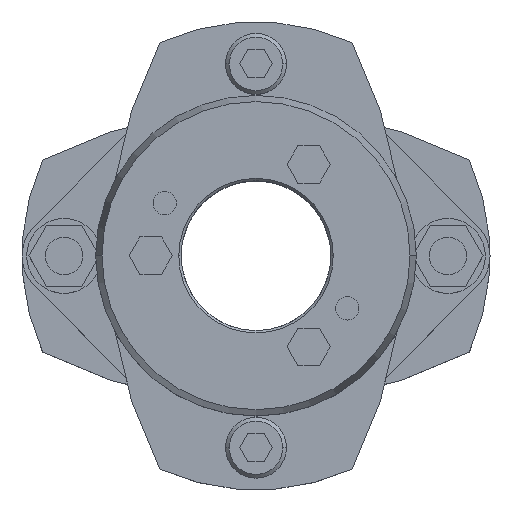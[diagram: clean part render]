
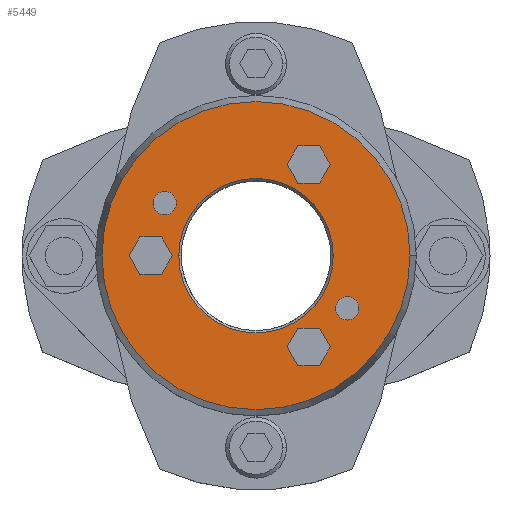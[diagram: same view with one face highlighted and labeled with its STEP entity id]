
A CAD part, top view. The second image highlights one B-rep face of the part: STEP entity #5449.
In plain terms, the highlighted planar face has unit normal (0, 0, 1).
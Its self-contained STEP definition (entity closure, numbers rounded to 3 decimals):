
#857=CARTESIAN_POINT('',(-16.5,0.,42.0));
#858=VERTEX_POINT('',#857);
#874=CARTESIAN_POINT('',(16.5,0.,42.0));
#875=VERTEX_POINT('',#874);
#882=CARTESIAN_POINT('',(0.,0.,42.0));
#883=DIRECTION('',(0.0,0.0,1.0));
#884=DIRECTION('',(-1.0,0.0,0.0));
#885=AXIS2_PLACEMENT_3D('',#882,#883,#884);
#886=CIRCLE('',#885,16.5);
#887=EDGE_CURVE('',#875,#858,#886,.T.);
#1045=CARTESIAN_POINT('',(32.91,0.,42.0));
#1046=VERTEX_POINT('',#1045);
#1053=CARTESIAN_POINT('',(-32.91,0.,42.0));
#1054=VERTEX_POINT('',#1053);
#1055=CARTESIAN_POINT('',(0.,0.,42.0));
#1056=DIRECTION('',(0.0,0.0,-1.0));
#1057=DIRECTION('',(1.0,0.0,0.0));
#1058=AXIS2_PLACEMENT_3D('',#1055,#1056,#1057);
#1059=CIRCLE('',#1058,32.91);
#1060=EDGE_CURVE('',#1046,#1054,#1059,.T.);
#1155=CARTESIAN_POINT('',(16.986,-11.25,42.0));
#1156=VERTEX_POINT('',#1155);
#1172=CARTESIAN_POINT('',(21.986,-11.25,42.0));
#1173=VERTEX_POINT('',#1172);
#1180=CARTESIAN_POINT('',(19.486,-11.25,42.0));
#1181=DIRECTION('',(0.0,0.0,-1.0));
#1182=DIRECTION('',(-1.0,0.0,0.0));
#1183=AXIS2_PLACEMENT_3D('',#1180,#1181,#1182);
#1184=CIRCLE('',#1183,2.5);
#1185=EDGE_CURVE('',#1156,#1173,#1184,.T.);
#1197=CARTESIAN_POINT('',(-21.986,11.25,42.0));
#1198=VERTEX_POINT('',#1197);
#1214=CARTESIAN_POINT('',(-16.986,11.25,42.0));
#1215=VERTEX_POINT('',#1214);
#1222=CARTESIAN_POINT('',(-19.486,11.25,42.0));
#1223=DIRECTION('',(0.0,0.0,-1.0));
#1224=DIRECTION('',(-1.0,0.0,0.0));
#1225=AXIS2_PLACEMENT_3D('',#1222,#1223,#1224);
#1226=CIRCLE('',#1225,2.5);
#1227=EDGE_CURVE('',#1198,#1215,#1226,.T.);
#4476=CARTESIAN_POINT('',(-19.486,11.25,42.0));
#4477=DIRECTION('',(0.0,0.0,-1.0));
#4478=DIRECTION('',(-1.0,0.0,0.0));
#4479=AXIS2_PLACEMENT_3D('',#4476,#4477,#4478);
#4480=CIRCLE('',#4479,2.5);
#4481=EDGE_CURVE('',#1215,#1198,#4480,.T.);
#4510=CARTESIAN_POINT('',(19.486,-11.25,42.0));
#4511=DIRECTION('',(0.0,0.0,-1.0));
#4512=DIRECTION('',(-1.0,0.0,0.0));
#4513=AXIS2_PLACEMENT_3D('',#4510,#4511,#4512);
#4514=CIRCLE('',#4513,2.5);
#4515=EDGE_CURVE('',#1173,#1156,#4514,.T.);
#4553=CARTESIAN_POINT('',(-27.119,0.,42.0));
#4554=VERTEX_POINT('',#4553);
#4561=CARTESIAN_POINT('',(-24.809,-4.,42.0));
#4562=VERTEX_POINT('',#4561);
#4563=CARTESIAN_POINT('',(-24.809,-4.,42.0));
#4564=DIRECTION('',(-0.5,0.866,0.0));
#4565=VECTOR('',#4564,4.619);
#4566=LINE('',#4563,#4565);
#4567=EDGE_CURVE('',#4562,#4554,#4566,.T.);
#4591=CARTESIAN_POINT('',(-24.809,4.,42.0));
#4592=VERTEX_POINT('',#4591);
#4599=CARTESIAN_POINT('',(-27.119,0.,42.0));
#4600=DIRECTION('',(0.5,0.866,0.0));
#4601=VECTOR('',#4600,4.619);
#4602=LINE('',#4599,#4601);
#4603=EDGE_CURVE('',#4554,#4592,#4602,.T.);
#4622=CARTESIAN_POINT('',(-20.191,4.,42.0));
#4623=VERTEX_POINT('',#4622);
#4630=CARTESIAN_POINT('',(-24.809,4.,42.0));
#4631=DIRECTION('',(1.0,0.0,0.0));
#4632=VECTOR('',#4631,4.619);
#4633=LINE('',#4630,#4632);
#4634=EDGE_CURVE('',#4592,#4623,#4633,.T.);
#4653=CARTESIAN_POINT('',(-17.881,0.,42.0));
#4654=VERTEX_POINT('',#4653);
#4661=CARTESIAN_POINT('',(-20.191,4.,42.0));
#4662=DIRECTION('',(0.5,-0.866,0.0));
#4663=VECTOR('',#4662,4.619);
#4664=LINE('',#4661,#4663);
#4665=EDGE_CURVE('',#4623,#4654,#4664,.T.);
#4684=CARTESIAN_POINT('',(-20.191,-4.,42.0));
#4685=VERTEX_POINT('',#4684);
#4692=CARTESIAN_POINT('',(-17.881,0.,42.0));
#4693=DIRECTION('',(-0.5,-0.866,0.0));
#4694=VECTOR('',#4693,4.619);
#4695=LINE('',#4692,#4694);
#4696=EDGE_CURVE('',#4654,#4685,#4695,.T.);
#4714=CARTESIAN_POINT('',(-20.191,-4.,42.0));
#4715=DIRECTION('',(-1.0,0.0,0.0));
#4716=VECTOR('',#4715,4.619);
#4717=LINE('',#4714,#4716);
#4718=EDGE_CURVE('',#4685,#4562,#4717,.T.);
#4753=CARTESIAN_POINT('',(6.631,19.486,42.0));
#4754=VERTEX_POINT('',#4753);
#4761=CARTESIAN_POINT('',(8.941,15.486,42.0));
#4762=VERTEX_POINT('',#4761);
#4763=CARTESIAN_POINT('',(8.941,15.486,42.0));
#4764=DIRECTION('',(-0.5,0.866,0.0));
#4765=VECTOR('',#4764,4.619);
#4766=LINE('',#4763,#4765);
#4767=EDGE_CURVE('',#4762,#4754,#4766,.T.);
#4791=CARTESIAN_POINT('',(8.941,23.486,42.0));
#4792=VERTEX_POINT('',#4791);
#4799=CARTESIAN_POINT('',(6.631,19.486,42.0));
#4800=DIRECTION('',(0.5,0.866,0.0));
#4801=VECTOR('',#4800,4.619);
#4802=LINE('',#4799,#4801);
#4803=EDGE_CURVE('',#4754,#4792,#4802,.T.);
#4822=CARTESIAN_POINT('',(13.559,23.486,42.0));
#4823=VERTEX_POINT('',#4822);
#4830=CARTESIAN_POINT('',(8.941,23.486,42.0));
#4831=DIRECTION('',(1.0,0.0,0.0));
#4832=VECTOR('',#4831,4.619);
#4833=LINE('',#4830,#4832);
#4834=EDGE_CURVE('',#4792,#4823,#4833,.T.);
#4853=CARTESIAN_POINT('',(15.869,19.486,42.0));
#4854=VERTEX_POINT('',#4853);
#4861=CARTESIAN_POINT('',(13.559,23.486,42.0));
#4862=DIRECTION('',(0.5,-0.866,0.0));
#4863=VECTOR('',#4862,4.619);
#4864=LINE('',#4861,#4863);
#4865=EDGE_CURVE('',#4823,#4854,#4864,.T.);
#4884=CARTESIAN_POINT('',(13.559,15.486,42.0));
#4885=VERTEX_POINT('',#4884);
#4892=CARTESIAN_POINT('',(15.869,19.486,42.0));
#4893=DIRECTION('',(-0.5,-0.866,0.0));
#4894=VECTOR('',#4893,4.619);
#4895=LINE('',#4892,#4894);
#4896=EDGE_CURVE('',#4854,#4885,#4895,.T.);
#4914=CARTESIAN_POINT('',(13.559,15.486,42.0));
#4915=DIRECTION('',(-1.0,0.0,0.0));
#4916=VECTOR('',#4915,4.619);
#4917=LINE('',#4914,#4916);
#4918=EDGE_CURVE('',#4885,#4762,#4917,.T.);
#4953=CARTESIAN_POINT('',(6.631,-19.486,42.0));
#4954=VERTEX_POINT('',#4953);
#4961=CARTESIAN_POINT('',(8.941,-23.486,42.0));
#4962=VERTEX_POINT('',#4961);
#4963=CARTESIAN_POINT('',(8.941,-23.486,42.0));
#4964=DIRECTION('',(-0.5,0.866,0.0));
#4965=VECTOR('',#4964,4.619);
#4966=LINE('',#4963,#4965);
#4967=EDGE_CURVE('',#4962,#4954,#4966,.T.);
#4991=CARTESIAN_POINT('',(8.941,-15.486,42.0));
#4992=VERTEX_POINT('',#4991);
#4999=CARTESIAN_POINT('',(6.631,-19.486,42.0));
#5000=DIRECTION('',(0.5,0.866,0.0));
#5001=VECTOR('',#5000,4.619);
#5002=LINE('',#4999,#5001);
#5003=EDGE_CURVE('',#4954,#4992,#5002,.T.);
#5022=CARTESIAN_POINT('',(13.559,-15.486,42.0));
#5023=VERTEX_POINT('',#5022);
#5030=CARTESIAN_POINT('',(8.941,-15.486,42.0));
#5031=DIRECTION('',(1.0,0.0,0.0));
#5032=VECTOR('',#5031,4.619);
#5033=LINE('',#5030,#5032);
#5034=EDGE_CURVE('',#4992,#5023,#5033,.T.);
#5053=CARTESIAN_POINT('',(15.869,-19.486,42.0));
#5054=VERTEX_POINT('',#5053);
#5061=CARTESIAN_POINT('',(13.559,-15.486,42.0));
#5062=DIRECTION('',(0.5,-0.866,0.0));
#5063=VECTOR('',#5062,4.619);
#5064=LINE('',#5061,#5063);
#5065=EDGE_CURVE('',#5023,#5054,#5064,.T.);
#5084=CARTESIAN_POINT('',(13.559,-23.486,42.0));
#5085=VERTEX_POINT('',#5084);
#5092=CARTESIAN_POINT('',(15.869,-19.486,42.0));
#5093=DIRECTION('',(-0.5,-0.866,0.0));
#5094=VECTOR('',#5093,4.619);
#5095=LINE('',#5092,#5094);
#5096=EDGE_CURVE('',#5054,#5085,#5095,.T.);
#5114=CARTESIAN_POINT('',(13.559,-23.486,42.0));
#5115=DIRECTION('',(-1.0,0.0,0.0));
#5116=VECTOR('',#5115,4.619);
#5117=LINE('',#5114,#5116);
#5118=EDGE_CURVE('',#5085,#4962,#5117,.T.);
#5388=CARTESIAN_POINT('',(0.,0.,42.0));
#5389=DIRECTION('',(0.0,0.0,-1.0));
#5390=DIRECTION('',(1.0,0.0,0.0));
#5391=AXIS2_PLACEMENT_3D('',#5388,#5389,#5390);
#5392=CIRCLE('',#5391,32.91);
#5393=EDGE_CURVE('',#1054,#1046,#5392,.T.);
#5398=CARTESIAN_POINT('',(-3.114,0.,42.0));
#5399=DIRECTION('',(0.0,0.0,1.0));
#5400=DIRECTION('',(-1.0,0.0,0.0));
#5401=AXIS2_PLACEMENT_3D('',#5398,#5399,#5400);
#5402=PLANE('',#5401);
#5403=ORIENTED_EDGE('',*,*,#5393,.F.);
#5404=ORIENTED_EDGE('',*,*,#1060,.F.);
#5405=EDGE_LOOP('',(#5403,#5404));
#5406=FACE_OUTER_BOUND('',#5405,.T.);
#5407=ORIENTED_EDGE('',*,*,#1227,.T.);
#5408=ORIENTED_EDGE('',*,*,#4481,.T.);
#5409=EDGE_LOOP('',(#5407,#5408));
#5410=FACE_BOUND('',#5409,.T.);
#5411=ORIENTED_EDGE('',*,*,#1185,.T.);
#5412=ORIENTED_EDGE('',*,*,#4515,.T.);
#5413=EDGE_LOOP('',(#5411,#5412));
#5414=FACE_BOUND('',#5413,.T.);
#5415=ORIENTED_EDGE('',*,*,#4567,.T.);
#5416=ORIENTED_EDGE('',*,*,#4603,.T.);
#5417=ORIENTED_EDGE('',*,*,#4634,.T.);
#5418=ORIENTED_EDGE('',*,*,#4665,.T.);
#5419=ORIENTED_EDGE('',*,*,#4696,.T.);
#5420=ORIENTED_EDGE('',*,*,#4718,.T.);
#5421=EDGE_LOOP('',(#5415,#5416,#5417,#5418,#5419,#5420));
#5422=FACE_BOUND('',#5421,.T.);
#5423=ORIENTED_EDGE('',*,*,#4767,.T.);
#5424=ORIENTED_EDGE('',*,*,#4803,.T.);
#5425=ORIENTED_EDGE('',*,*,#4834,.T.);
#5426=ORIENTED_EDGE('',*,*,#4865,.T.);
#5427=ORIENTED_EDGE('',*,*,#4896,.T.);
#5428=ORIENTED_EDGE('',*,*,#4918,.T.);
#5429=EDGE_LOOP('',(#5423,#5424,#5425,#5426,#5427,#5428));
#5430=FACE_BOUND('',#5429,.T.);
#5431=ORIENTED_EDGE('',*,*,#4967,.T.);
#5432=ORIENTED_EDGE('',*,*,#5003,.T.);
#5433=ORIENTED_EDGE('',*,*,#5034,.T.);
#5434=ORIENTED_EDGE('',*,*,#5065,.T.);
#5435=ORIENTED_EDGE('',*,*,#5096,.T.);
#5436=ORIENTED_EDGE('',*,*,#5118,.T.);
#5437=EDGE_LOOP('',(#5431,#5432,#5433,#5434,#5435,#5436));
#5438=FACE_BOUND('',#5437,.T.);
#5439=ORIENTED_EDGE('',*,*,#887,.F.);
#5440=CARTESIAN_POINT('',(0.,0.,42.0));
#5441=DIRECTION('',(0.0,0.0,1.0));
#5442=DIRECTION('',(-1.0,0.0,0.0));
#5443=AXIS2_PLACEMENT_3D('',#5440,#5441,#5442);
#5444=CIRCLE('',#5443,16.5);
#5445=EDGE_CURVE('',#858,#875,#5444,.T.);
#5446=ORIENTED_EDGE('',*,*,#5445,.F.);
#5447=EDGE_LOOP('',(#5439,#5446));
#5448=FACE_BOUND('',#5447,.T.);
#5449=ADVANCED_FACE('',(#5406,#5410,#5414,#5422,#5430,#5438,#5448),#5402,.T.);
